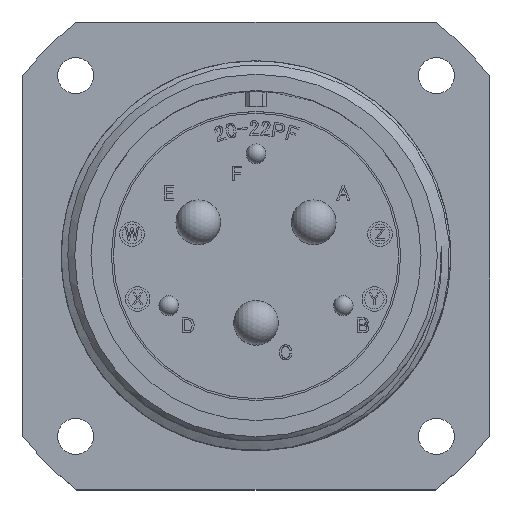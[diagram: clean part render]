
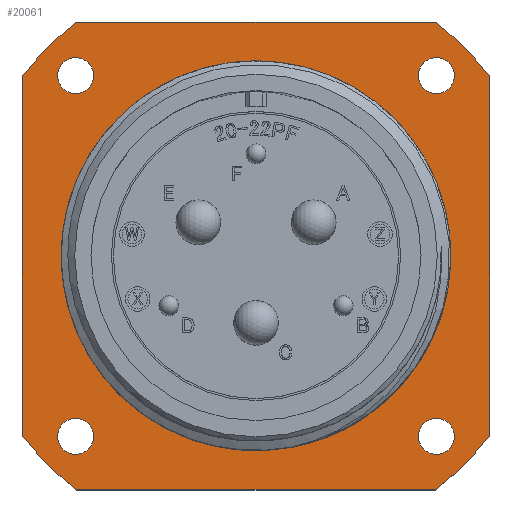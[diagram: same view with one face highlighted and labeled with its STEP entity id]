
A CAD part, top view. The second image highlights one B-rep face of the part: STEP entity #20061.
In plain terms, the highlighted planar face has unit normal (0, 0, 1).
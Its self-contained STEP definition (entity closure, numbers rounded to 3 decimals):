
#150 = EDGE_CURVE ( 'NONE', #23684, #23684, #22784, .T. ) ;
#625 = CARTESIAN_POINT ( 'NONE',  ( 16.15, 14.685, -19.24 ) ) ;
#1148 = EDGE_CURVE ( 'NONE', #2854, #30393, #18987, .T. ) ;
#1247 = CARTESIAN_POINT ( 'NONE',  ( 14.685, -14.685, -19.24 ) ) ;
#1302 = CARTESIAN_POINT ( 'NONE',  ( 14.685, 14.685, -19.24 ) ) ;
#1619 = ORIENTED_EDGE ( 'NONE', *, *, #8177, .T. ) ;
#1824 = VERTEX_POINT ( 'NONE', #26674 ) ;
#2595 = EDGE_LOOP ( 'NONE', ( #19445 ) ) ;
#2854 = VERTEX_POINT ( 'NONE', #23386 ) ;
#3192 = EDGE_CURVE ( 'NONE', #1824, #14335, #24155, .T. ) ;
#3861 = DIRECTION ( 'NONE',  ( -1., 0., 0. ) ) ;
#3909 = AXIS2_PLACEMENT_3D ( 'NONE', #20737, #11164, #20841 ) ;
#4106 = EDGE_CURVE ( 'NONE', #2854, #14335, #7175, .T. ) ;
#4316 = EDGE_LOOP ( 'NONE', ( #14423 ) ) ;
#4349 = EDGE_LOOP ( 'NONE', ( #16067 ) ) ;
#4764 = CARTESIAN_POINT ( 'NONE',  ( 19.05, 19.05, -19.24 ) ) ;
#4796 = CARTESIAN_POINT ( 'NONE',  ( -19.05, -19.05, -19.24 ) ) ;
#5507 = DIRECTION ( 'NONE',  ( 0., 0., 1. ) ) ;
#5703 = CIRCLE ( 'NONE', #3909, 24. ) ;
#5782 = CIRCLE ( 'NONE', #17611, 1.465 ) ;
#5903 = CARTESIAN_POINT ( 'NONE',  ( -14.598, -19.05, -19.24 ) ) ;
#6288 = DIRECTION ( 'NONE',  ( 0., 0., -1. ) ) ;
#6650 = EDGE_CURVE ( 'NONE', #7404, #27976, #21022, .T. ) ;
#7175 = CIRCLE ( 'NONE', #15786, 24. ) ;
#7404 = VERTEX_POINT ( 'NONE', #5903 ) ;
#8177 = EDGE_CURVE ( 'NONE', #30261, #13348, #28384, .T. ) ;
#8339 = DIRECTION ( 'NONE',  ( 0., 0., -1. ) ) ;
#8716 = DIRECTION ( 'NONE',  ( 1., 0., 0. ) ) ;
#8821 = VECTOR ( 'NONE', #13573, 1000. ) ;
#9122 = AXIS2_PLACEMENT_3D ( 'NONE', #15847, #25439, #25532 ) ;
#9212 = AXIS2_PLACEMENT_3D ( 'NONE', #27914, #22957, #18246 ) ;
#9488 = ORIENTED_EDGE ( 'NONE', *, *, #3192, .T. ) ;
#9519 = DIRECTION ( 'NONE',  ( 0., 1., 0. ) ) ;
#10013 = CIRCLE ( 'NONE', #26355, 1.465 ) ;
#10757 = CARTESIAN_POINT ( 'NONE',  ( 0., 0., -19.24 ) ) ;
#10899 = FACE_BOUND ( 'NONE', #12607, .T. ) ;
#10939 = EDGE_CURVE ( 'NONE', #7404, #30393, #20013, .T. ) ;
#11043 = EDGE_CURVE ( 'NONE', #1824, #13348, #5703, .T. ) ;
#11111 = VECTOR ( 'NONE', #9519, 1000. ) ;
#11164 = DIRECTION ( 'NONE',  ( 0., 0., -1. ) ) ;
#11687 = CIRCLE ( 'NONE', #25720, 1.465 ) ;
#12354 = VERTEX_POINT ( 'NONE', #19873 ) ;
#12379 = FACE_BOUND ( 'NONE', #4316, .T. ) ;
#12607 = EDGE_LOOP ( 'NONE', ( #30911 ) ) ;
#13348 = VERTEX_POINT ( 'NONE', #28456 ) ;
#13387 = ORIENTED_EDGE ( 'NONE', *, *, #15686, .F. ) ;
#13391 = ORIENTED_EDGE ( 'NONE', *, *, #11043, .F. ) ;
#13433 = CARTESIAN_POINT ( 'NONE',  ( 0., 0., -19.24 ) ) ;
#13515 = DIRECTION ( 'NONE',  ( 1., 0., 0. ) ) ;
#13573 = DIRECTION ( 'NONE',  ( 0., -1., 0. ) ) ;
#13833 = ORIENTED_EDGE ( 'NONE', *, *, #25748, .F. ) ;
#14293 = CARTESIAN_POINT ( 'NONE',  ( 14.598, -19.05, -19.24 ) ) ;
#14335 = VERTEX_POINT ( 'NONE', #14858 ) ;
#14423 = ORIENTED_EDGE ( 'NONE', *, *, #17020, .F. ) ;
#14603 = VECTOR ( 'NONE', #26492, 1000. ) ;
#14858 = CARTESIAN_POINT ( 'NONE',  ( -14.598, 19.05, -19.24 ) ) ;
#14992 = VERTEX_POINT ( 'NONE', #17568 ) ;
#15426 = CARTESIAN_POINT ( 'NONE',  ( 19.05, -14.598, -19.24 ) ) ;
#15686 = EDGE_CURVE ( 'NONE', #30261, #27976, #25832, .T. ) ;
#15784 = FACE_BOUND ( 'NONE', #2595, .T. ) ;
#15786 = AXIS2_PLACEMENT_3D ( 'NONE', #13433, #6288, #8716 ) ;
#15840 = DIRECTION ( 'NONE',  ( 0., 0., 1. ) ) ;
#15847 = CARTESIAN_POINT ( 'NONE',  ( -14.685, 14.685, -19.24 ) ) ;
#16067 = ORIENTED_EDGE ( 'NONE', *, *, #150, .F. ) ;
#16143 = FACE_BOUND ( 'NONE', #4349, .T. ) ;
#17020 = EDGE_CURVE ( 'NONE', #19163, #19163, #10013, .T. ) ;
#17418 = AXIS2_PLACEMENT_3D ( 'NONE', #10757, #8339, #17595 ) ;
#17473 = CARTESIAN_POINT ( 'NONE',  ( -13.22, -14.685, -19.24 ) ) ;
#17568 = CARTESIAN_POINT ( 'NONE',  ( -13.22, 14.685, -19.24 ) ) ;
#17587 = CARTESIAN_POINT ( 'NONE',  ( -14.685, -14.685, -19.24 ) ) ;
#17595 = DIRECTION ( 'NONE',  ( 1., 0., 0. ) ) ;
#17611 = AXIS2_PLACEMENT_3D ( 'NONE', #17587, #22417, #25169 ) ;
#17933 = AXIS2_PLACEMENT_3D ( 'NONE', #18164, #20286, #20486 ) ;
#18063 = FACE_BOUND ( 'NONE', #25920, .T. ) ;
#18164 = CARTESIAN_POINT ( 'NONE',  ( 0., 0., -19.24 ) ) ;
#18220 = DIRECTION ( 'NONE',  ( 0., 0., 1. ) ) ;
#18246 = DIRECTION ( 'NONE',  ( 1., 0., 0. ) ) ;
#18420 = CARTESIAN_POINT ( 'NONE',  ( -19.05, 19.05, -19.24 ) ) ;
#18987 = LINE ( 'NONE', #18420, #8821 ) ;
#19163 = VERTEX_POINT ( 'NONE', #625 ) ;
#19445 = ORIENTED_EDGE ( 'NONE', *, *, #30411, .F. ) ;
#19873 = CARTESIAN_POINT ( 'NONE',  ( 16.15, -14.685, -19.24 ) ) ;
#20013 = CIRCLE ( 'NONE', #17418, 24. ) ;
#20061 = ADVANCED_FACE ( 'NONE', ( #10899, #12379, #15784, #18063, #25566, #16143 ), #22880, .T. ) ;
#20263 = DIRECTION ( 'NONE',  ( 1., 0., 0. ) ) ;
#20286 = DIRECTION ( 'NONE',  ( 0., 0., 1. ) ) ;
#20421 = VECTOR ( 'NONE', #3861, 1000. ) ;
#20486 = DIRECTION ( 'NONE',  ( 1., 0., 0. ) ) ;
#20669 = CARTESIAN_POINT ( 'NONE',  ( -19.05, 19.05, -19.24 ) ) ;
#20737 = CARTESIAN_POINT ( 'NONE',  ( 0., 0., -19.24 ) ) ;
#20841 = DIRECTION ( 'NONE',  ( 1., 0., 0. ) ) ;
#21022 = LINE ( 'NONE', #4796, #14603 ) ;
#22026 = CIRCLE ( 'NONE', #9122, 1.465 ) ;
#22261 = CARTESIAN_POINT ( 'NONE',  ( -19.05, -14.598, -19.24 ) ) ;
#22417 = DIRECTION ( 'NONE',  ( 0., 0., 1. ) ) ;
#22784 = CIRCLE ( 'NONE', #29829, 15.855 ) ;
#22880 = PLANE ( 'NONE',  #17933 ) ;
#22957 = DIRECTION ( 'NONE',  ( 0., 0., -1. ) ) ;
#23313 = EDGE_CURVE ( 'NONE', #14992, #14992, #22026, .T. ) ;
#23386 = CARTESIAN_POINT ( 'NONE',  ( -19.05, 14.598, -19.24 ) ) ;
#23684 = VERTEX_POINT ( 'NONE', #24181 ) ;
#24155 = LINE ( 'NONE', #20669, #20421 ) ;
#24181 = CARTESIAN_POINT ( 'NONE',  ( 15.855, 0., -19.24 ) ) ;
#24675 = ORIENTED_EDGE ( 'NONE', *, *, #1148, .T. ) ;
#24866 = CARTESIAN_POINT ( 'NONE',  ( 0., 0., -19.24 ) ) ;
#25169 = DIRECTION ( 'NONE',  ( 1., 0., 0. ) ) ;
#25439 = DIRECTION ( 'NONE',  ( 0., 0., 1. ) ) ;
#25532 = DIRECTION ( 'NONE',  ( 1., 0., 0. ) ) ;
#25566 = FACE_OUTER_BOUND ( 'NONE', #25691, .T. ) ;
#25691 = EDGE_LOOP ( 'NONE', ( #13391, #9488, #29599, #24675, #28695, #27324, #13387, #1619 ) ) ;
#25720 = AXIS2_PLACEMENT_3D ( 'NONE', #1247, #15840, #13515 ) ;
#25748 = EDGE_CURVE ( 'NONE', #29700, #29700, #5782, .T. ) ;
#25832 = CIRCLE ( 'NONE', #9212, 24. ) ;
#25920 = EDGE_LOOP ( 'NONE', ( #13833 ) ) ;
#26355 = AXIS2_PLACEMENT_3D ( 'NONE', #1302, #18220, #27794 ) ;
#26492 = DIRECTION ( 'NONE',  ( 1., 0., 0. ) ) ;
#26674 = CARTESIAN_POINT ( 'NONE',  ( 14.598, 19.05, -19.24 ) ) ;
#27324 = ORIENTED_EDGE ( 'NONE', *, *, #6650, .T. ) ;
#27794 = DIRECTION ( 'NONE',  ( 1., 0., 0. ) ) ;
#27914 = CARTESIAN_POINT ( 'NONE',  ( 0., 0., -19.24 ) ) ;
#27976 = VERTEX_POINT ( 'NONE', #14293 ) ;
#28384 = LINE ( 'NONE', #4764, #11111 ) ;
#28456 = CARTESIAN_POINT ( 'NONE',  ( 19.05, 14.598, -19.24 ) ) ;
#28695 = ORIENTED_EDGE ( 'NONE', *, *, #10939, .F. ) ;
#29599 = ORIENTED_EDGE ( 'NONE', *, *, #4106, .F. ) ;
#29700 = VERTEX_POINT ( 'NONE', #17473 ) ;
#29829 = AXIS2_PLACEMENT_3D ( 'NONE', #24866, #5507, #20263 ) ;
#30261 = VERTEX_POINT ( 'NONE', #15426 ) ;
#30393 = VERTEX_POINT ( 'NONE', #22261 ) ;
#30411 = EDGE_CURVE ( 'NONE', #12354, #12354, #11687, .T. ) ;
#30911 = ORIENTED_EDGE ( 'NONE', *, *, #23313, .F. ) ;
